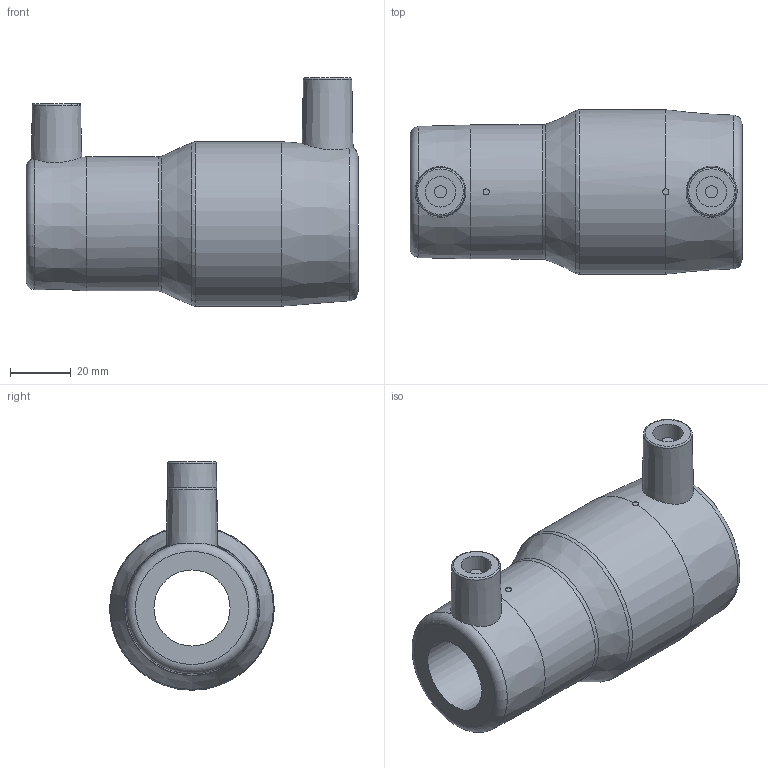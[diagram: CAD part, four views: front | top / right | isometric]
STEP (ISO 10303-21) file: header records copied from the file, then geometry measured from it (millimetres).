
FILE_DESCRIPTION(/* description */ ('Unknown'),/* implementation_level */ '2;1');
FILE_NAME(/* name */ 'REP040025C',/* time_stamp */ '2021-05-24T15:53:09+02:00',/* author */ ('Unknown'),/* organization */ ('Unknown'),/* preprocessor_version */ 'ST-DEVELOPER v16.7',/* originating_system */ 'Solid Edge',/* authorisation */ 'Unknown');
FILE_SCHEMA (('AUTOMOTIVE_DESIGN {1 0 10303 214 3 1 1}'));
Length unit declared in the file: millimetre
Products named in the file (1): REP040025C
Bounding box: 109 x 53.99 x 75 mm (x, y, z)
Volume: 115127.9 mm3; surface area: 32975.5 mm2
Topology: 1 solids, 1 shells, 32 faces, 72 edges, 46 vertices
Faces by surface type: cylinder 10, plane 10, cone 6, torus 6
Full cylindrical faces by diameter (mm): 2 x2, 4 x2, 10 x2, 25 x1, 40 x1, 44 x1, 54 x1
Entity records: 737 total; most frequent: CARTESIAN_POINT 162, DIRECTION 122, ORIENTED_EDGE 70, EDGE_LOOP 61, FACE_BOUND 61, AXIS2_PLACEMENT_3D 61, EDGE_CURVE 35, VERTEX_POINT 32
